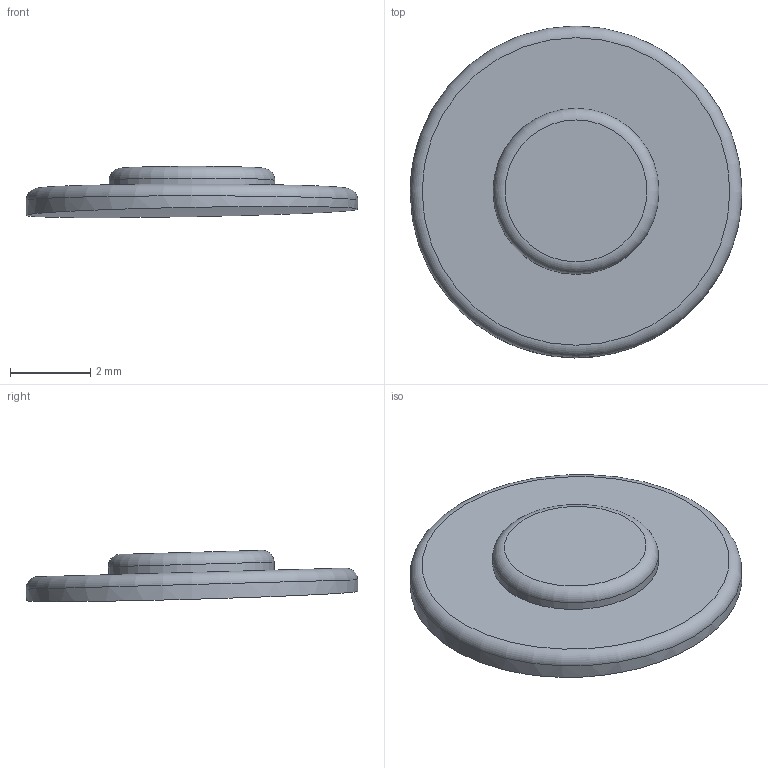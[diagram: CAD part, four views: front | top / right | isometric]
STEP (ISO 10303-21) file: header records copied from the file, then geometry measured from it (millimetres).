
FILE_DESCRIPTION(/* description */ ('','CAx-IF Rec.Pracs.---Representation and Presentation of Product Manufacturing Information (PMI)---4.0---2014-10-13'),/* implementation_level */ '2;1');
FILE_NAME(/* name */ '20thhuckinsfuelinlet.step',/* time_stamp */ '2025-03-21T20:57:12+11:00',/* author */ (''),/* organization */ (''),/* preprocessor_version */ 'ST-DEVELOPER v20',/* originating_system */ 'Autodesk Translation Framework v13.20.0.188',/* authorisation */ '');
FILE_SCHEMA (('AP242_MANAGED_MODEL_BASED_3D_ENGINEERING_MIM_LF { 1 0 10303 442 1 1 4 }'));
Length unit declared in the file: millimetre
Products named in the file (1): HuckinsDeckParts
Bounding box: 8.26 x 8.27 x 1.28 mm (x, y, z)
Volume: 37.5 mm3; surface area: 124 mm2
Topology: 1 solids, 1 shells, 7 faces, 10 edges, 6 vertices
Faces by surface type: cylinder 3, torus 2, plane 2
Full cylindrical faces by diameter (mm): 4.132 x1, 8.265 x1
Entity records: 233 total; most frequent: CARTESIAN_POINT 57, DIRECTION 32, ORIENTED_EDGE 20, AXIS2_PLACEMENT_3D 15, EDGE_CURVE 10, EDGE_LOOP 8, FACE_OUTER_BOUND 7, CIRCLE 7
